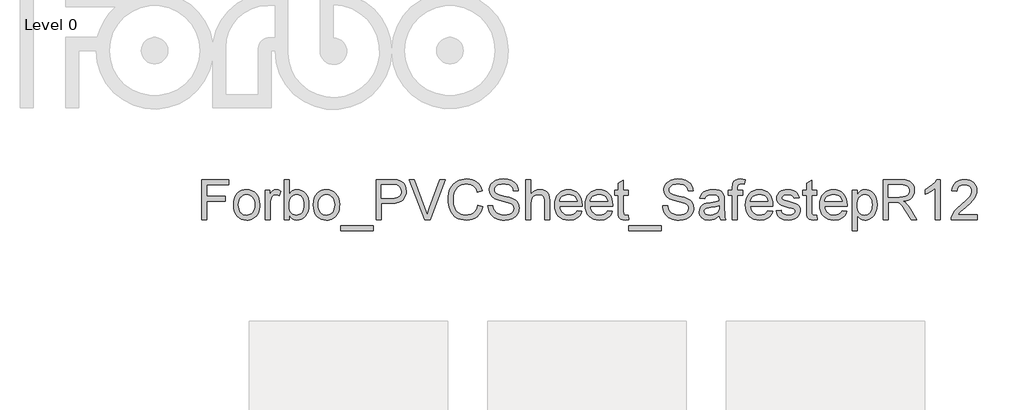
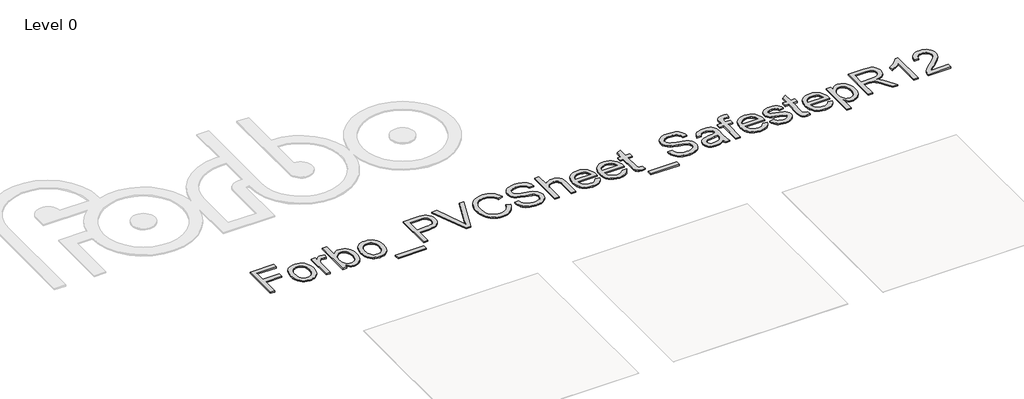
# One storey, part 5 of 5: 1 proxy.
"""IFC4 building model written with IfcOpenShell, lengths in millimetres."""

from ifc_helpers import new_model, si_unit, origin, origin_with_axes, place, context, project, spatial, polyline, outline, extrude, element, save

model = new_model("IFC4")

# Units and contexts
model_context = context("Model", 3, world=origin())
ifc_project = project(units=[si_unit("LENGTHUNIT", "METRE", prefix="MILLI")], contexts=[model_context])

# Site, building, storey
site = spatial("IfcSite", under=ifc_project)
building = spatial("IfcBuilding", under=site)
storey = spatial("IfcBuildingStorey", under=building, Name="Level 0", Elevation=0.0)

# Proxy
placement = place(None, origin())
element("IfcBuildingElementProxy", 1, Name="Title", ObjectType="Title", at=placement, inside=storey, context=model_context, shape_type="SweptSolid", body=[
    extrude(outline(polyline([(19003.7501989, 2450.4314066), (19003.7501989, 3053.1692675), (19408.7146992, 3053.1692675), (19408.7146992, 2977.8270349), (19079.0924315, 2977.8270349), (19079.0924315, 2798.8892325), (19361.6258038, 2798.8892325), (19361.6258038, 2723.5469998), (19079.0924315, 2723.5469998), (19079.0924315, 2450.4314066), (19003.7501989, 2450.4314066)])), origin_with_axes(), (0.0, 0.0, 1.0), 20.0),
    extrude(outline(polyline([(19484.0569318, 2671.7492149), (19488.1312249, 2729.0744268), (19500.3541042, 2778.4717817), (19520.7255697, 2819.9412796), (19549.2456213, 2853.4829205), (19577.9588111, 2874.9212438), (19609.6518449, 2890.2343319), (19644.324723, 2899.4221847), (19681.9774452, 2902.4848023), (19723.5435121, 2898.7553986), (19761.1272565, 2887.5671874), (19794.7286782, 2868.9201688), (19824.3477773, 2842.8143427), (19848.5222229, 2810.1326259), (19865.7896841, 2771.7579353), (19876.1501608, 2727.6902708), (19879.603653, 2677.9296324), (19878.0769427, 2637.6005687), (19873.4968119, 2601.8148476), (19865.8632605, 2570.5724692), (19855.1762885, 2543.8734334), (19841.5692532, 2520.8118308), (19825.1755118, 2500.4817521), (19805.9950643, 2482.8831971), (19784.0279107, 2468.016166), (19760.1293765, 2456.2025554), (19735.1547876, 2447.7642622), (19709.1041438, 2442.7012862), (19681.9774452, 2441.0136275), (19639.804373, 2444.7292357), (19601.8711407, 2455.8760601), (19568.1777485, 2474.4541009), (19538.7241963, 2500.463358), (19514.8072681, 2533.4623729), (19497.7237479, 2573.0096874), (19487.4736358, 2619.1053014), (19484.0569318, 2671.7492149)]), holes=[polyline([(19559.3991644, 2671.8963677), (19561.5788652, 2635.35189), (19568.1179677, 2603.7094399), (19579.0164718, 2576.9690174), (19594.2743775, 2555.1306224), (19612.8340242, 2538.1666639), (19633.637751, 2526.0495507), (19656.685558, 2518.7792828), (19681.9774452, 2516.3558602), (19707.1405737, 2518.7930784), (19730.0964102, 2526.104733), (19750.8449547, 2538.2908241), (19769.3862072, 2555.3513516), (19784.644113, 2577.4058773), (19795.5426171, 2604.5739626), (19802.0817196, 2636.8556077), (19804.2614204, 2674.2508125), (19802.067924, 2709.6364619), (19795.4874348, 2740.4511775), (19784.5199528, 2766.6949593), (19769.165478, 2788.3678074), (19750.5552476, 2805.3317659), (19729.8204987, 2817.4488791), (19706.9612312, 2824.719147), (19681.9774452, 2827.1425697), (19656.685558, 2824.7283441), (19633.637751, 2817.4856673), (19612.8340242, 2805.4145393), (19594.2743775, 2788.5149602), (19579.0164718, 2766.7409446), (19568.1179677, 2740.0465073), (19561.5788652, 2708.4316484), (19559.3991644, 2671.8963677)])]), origin_with_axes(), (0.0, 0.0, 1.0), 20.0),
    extrude(outline(polyline([(19964.3636647, 2450.4314066), (19964.3636647, 2893.0670232), (20030.2881182, 2893.0670232), (20030.2881182, 2827.5840281), (20054.6419063, 2865.54945), (20077.082708, 2887.9166753), (20099.5970861, 2898.8427705), (20124.1716034, 2902.4848023), (20161.6955669, 2896.6722668), (20199.8081416, 2879.2346602), (20174.6450131, 2811.6915259), (20148.1575095, 2823.2798087), (20121.6700058, 2827.1425697), (20099.1740218, 2823.4269615), (20079.0692708, 2812.2801371), (20062.8272807, 2794.5482249), (20051.9195795, 2771.0773536), (20042.7593179, 2728.9916534), (20039.7058973, 2683.0799804), (20039.7058973, 2450.4314066), (19964.3636647, 2450.4314066)])), origin_with_axes(), (0.0, 0.0, 1.0), 20.0),
    extrude(outline(polyline([(20322.2392696, 2450.4314066), (20246.897037, 2450.4314066), (20246.897037, 3053.1692675), (20322.2392696, 3053.1692675), (20322.2392696, 2829.6441672), (20347.016122, 2861.5119451), (20374.9935477, 2884.2746435), (20406.1715468, 2897.9322626), (20440.5501192, 2902.4848023), (20479.3616697, 2898.382918), (20516.0395047, 2886.0772653), (20548.4866966, 2866.3403963), (20574.6063183, 2839.9448631), (20595.0789513, 2807.1481832), (20610.5851774, 2768.2078741), (20620.3524444, 2724.7426163), (20623.6082, 2678.3710908), (20620.2374813, 2624.8626546), (20610.1253249, 2577.7921533), (20593.271731, 2537.159587), (20569.6766996, 2502.9649555), (20541.3543845, 2475.8612495), (20510.3189396, 2456.5014595), (20476.5703651, 2444.8855855), (20440.1086609, 2441.0136275), (20404.5988513, 2446.0076256), (20373.1173495, 2460.9896199), (20345.6641556, 2485.9596103), (20322.2392696, 2520.9175969), (20322.2392696, 2450.4314066)]), holes=[polyline([(20322.2392696, 2674.8394237), (20327.3896175, 2612.0051789), (20333.8275524, 2588.2032138), (20342.8406613, 2569.4780203), (20361.0968053, 2546.2370752), (20382.3143994, 2529.6364002), (20406.4934435, 2519.6759952), (20433.6339377, 2516.3558602), (20456.1667099, 2518.8022754), (20477.1175896, 2526.1415212), (20496.4865766, 2538.3735976), (20514.2736711, 2555.4985044), (20529.1453007, 2577.4702566), (20539.7678933, 2604.2428688), (20546.1414489, 2635.816341), (20548.2659674, 2672.1906733), (20546.2288209, 2709.2547843), (20540.1173812, 2741.1317592), (20529.9316485, 2767.821598), (20515.6716227, 2789.3243006), (20498.5237232, 2805.8697933), (20479.6743694, 2817.6880024), (20459.1235615, 2824.7789279), (20436.8712993, 2827.1425697), (20414.3385271, 2824.6961544), (20393.3876475, 2817.3569086), (20374.0186604, 2805.1248323), (20356.231566, 2787.9999254), (20341.3599363, 2766.2489024), (20330.7373437, 2740.1384778), (20324.3637881, 2709.6686516), (20322.2392696, 2674.8394237)])]), origin_with_axes(), (0.0, 0.0, 1.0), 20.0),
    extrude(outline(polyline([(20689.5326536, 2671.7492149), (20693.6069467, 2729.0744268), (20705.829826, 2778.4717817), (20726.2012915, 2819.9412796), (20754.7213431, 2853.4829205), (20783.4345329, 2874.9212438), (20815.1275667, 2890.2343319), (20849.8004448, 2899.4221847), (20887.453167, 2902.4848023), (20929.0192339, 2898.7553986), (20966.6029783, 2887.5671874), (21000.2044, 2868.9201688), (21029.8234991, 2842.8143427), (21053.9979447, 2810.1326259), (21071.2654059, 2771.7579353), (21081.6258826, 2727.6902708), (21085.0793748, 2677.9296324), (21083.5526645, 2637.6005687), (21078.9725337, 2601.8148476), (21071.3389823, 2570.5724692), (21060.6520103, 2543.8734334), (21047.044975, 2520.8118308), (21030.6512336, 2500.4817521), (21011.4707861, 2482.8831971), (20989.5036325, 2468.016166), (20965.6050983, 2456.2025554), (20940.6305094, 2447.7642622), (20914.5798656, 2442.7012862), (20887.453167, 2441.0136275), (20845.2800948, 2444.7292357), (20807.3468625, 2455.8760601), (20773.6534703, 2474.4541009), (20744.1999181, 2500.463358), (20720.2829899, 2533.4623729), (20703.1994697, 2573.0096874), (20692.9493576, 2619.1053014), (20689.5326536, 2671.7492149)]), holes=[polyline([(20764.8748862, 2671.8963677), (20767.054587, 2635.35189), (20773.5936895, 2603.7094399), (20784.4921936, 2576.9690174), (20799.7500993, 2555.1306224), (20818.309746, 2538.1666639), (20839.1134728, 2526.0495507), (20862.1612798, 2518.7792828), (20887.453167, 2516.3558602), (20912.6162955, 2518.7930784), (20935.572132, 2526.104733), (20956.3206765, 2538.2908241), (20974.861929, 2555.3513516), (20990.1198348, 2577.4058773), (21001.0183389, 2604.5739626), (21007.5574414, 2636.8556077), (21009.7371422, 2674.2508125), (21007.5436458, 2709.6364619), (21000.9631566, 2740.4511775), (20989.9956746, 2766.6949593), (20974.6411998, 2788.3678074), (20956.0309694, 2805.3317659), (20935.2962205, 2817.4488791), (20912.436953, 2824.719147), (20887.453167, 2827.1425697), (20862.1612798, 2824.7283441), (20839.1134728, 2817.4856673), (20818.309746, 2805.4145393), (20799.7500993, 2788.5149602), (20784.4921936, 2766.7409446), (20773.5936895, 2740.0465073), (20767.054587, 2708.4316484), (20764.8748862, 2671.8963677)])]), origin_with_axes(), (0.0, 0.0, 1.0), 20.0),
    extrude(outline(polyline([(21103.9149329, 2280.9113832), (21103.9149329, 2356.2536159), (21593.6394449, 2356.2536159), (21593.6394449, 2280.9113832), (21103.9149329, 2280.9113832)])), origin_with_axes(), (0.0, 0.0, 1.0), 20.0),
    extrude(outline(polyline([(21640.7283403, 2450.4314066), (21640.7283403, 3053.1692675), (21864.1062878, 3053.1692675), (21916.1248019, 3051.7345277), (21954.1638002, 3047.4303084), (21994.31812, 3036.7065482), (22027.3723172, 3019.2505476), (22053.9885796, 2994.2713601), (22074.8290946, 2960.9780395), (22088.2935756, 2921.7066365), (22092.781736, 2878.7932018), (22089.751308, 2841.7934701), (22080.6600242, 2807.7551885), (22065.5078846, 2776.678357), (22044.294889, 2748.5629755), (22015.1724306, 2725.2576511), (21976.2919022, 2708.6109908), (21927.6533039, 2698.6229947), (21869.2566357, 2695.2936626), (21716.0705729, 2695.2936626), (21716.0705729, 2450.4314066), (21640.7283403, 2450.4314066)]), holes=[polyline([(21716.0705729, 2770.6358952), (21873.6712197, 2770.6358952), (21909.9075962, 2772.3649406), (21940.47859, 2777.5520767), (21965.3842011, 2786.1973036), (21984.6244294, 2798.3006213), (21998.9810243, 2813.5401329), (22009.2357349, 2831.5939418), (22015.3885612, 2852.462048), (22017.4395034, 2876.1444514), (22012.6018551, 2909.989595), (21998.0889104, 2938.5372378), (21975.703291, 2960.0215463), (21947.2476187, 2972.676687), (21918.1849411, 2976.5394479), (21871.9053861, 2977.8270349), (21716.0705729, 2977.8270349), (21716.0705729, 2770.6358952)])]), origin_with_axes(), (0.0, 0.0, 1.0), 20.0),
    extrude(outline(polyline([(22374.4321915, 2450.4314066), (22134.5731306, 3053.1692675), (22215.212864, 3053.1692675), (22375.7565667, 2618.9213604), (22408.277335, 2521.0647497), (22440.356645, 2618.9213604), (22601.3418061, 3053.1692675), (22681.9815395, 3053.1692675), (22452.2760217, 2450.4314066), (22374.4321915, 2450.4314066)])), origin_with_axes(), (0.0, 0.0, 1.0), 20.0),
    extrude(outline(polyline([(23175.8263298, 2664.6858806), (23251.1685624, 2645.2617113), (23236.2601445, 2598.4073407), (23216.4037139, 2557.4666731), (23191.5992703, 2522.4397087), (23161.846814, 2493.3264473), (23127.8177294, 2470.4395886), (23090.1834013, 2454.0918325), (23048.9438296, 2444.2831788), (23004.0990144, 2441.0136275), (22958.1551518, 2443.487634), (22916.7086465, 2450.9096532), (22879.7594986, 2463.2796853), (22847.3077081, 2480.5977302), (22818.9072181, 2502.6062706), (22794.1119716, 2529.047789), (22772.9219687, 2559.9222854), (22755.3372093, 2595.2297599), (22741.5278389, 2633.4435022), (22731.6640029, 2673.0368019), (22725.7457013, 2714.0096591), (22723.7729341, 2756.3620738), (22726.0032187, 2801.8046973), (22732.6940725, 2844.2490825), (22743.8454955, 2883.6952294), (22759.4574876, 2920.1431381), (22779.1805611, 2952.9904017), (22802.665228, 2981.6346136), (22829.9114882, 3006.0757736), (22860.9193419, 3026.3138819), (22894.6357268, 3042.1833914), (22930.0075806, 3053.5187554), (22967.0349034, 3060.3199738), (23005.7176952, 3062.5870466), (23048.8104724, 3059.6531877), (23088.3255972, 3050.8516109), (23124.2630696, 3036.1823164), (23156.6228896, 3015.645304), (23184.8716283, 2989.7831997), (23208.4758569, 2959.1386295), (23227.4355752, 2923.7115934), (23241.7507833, 2883.5020913), (23166.4085507, 2865.54945), (23154.5443564, 2895.1777462), (23140.2889291, 2920.492626), (23123.6422688, 2941.4940894), (23104.6043755, 2958.1821364), (23083.0648847, 2970.8970578), (23058.9134317, 2979.9791446), (23032.1500166, 2985.4283966), (23002.7746393, 2987.244814), (22968.9754809, 2985.2306601), (22938.0641963, 2979.1881983), (22910.0407853, 2969.1174287), (22884.905248, 2955.0183512), (22862.9748826, 2937.5255623), (22844.5669872, 2917.2736585), (22829.681562, 2894.2626397), (22818.3186069, 2868.4925059), (22803.9160268, 2813.3469949), (22799.1151667, 2756.5092266), (22804.7989436, 2686.9059531), (22811.9036646, 2655.6359835), (22821.850274, 2626.7204587), (22834.7997203, 2600.7341943), (22850.9129516, 2578.2520058), (22870.1899682, 2559.2738934), (22892.6307699, 2543.799857), (22917.1455064, 2531.7931084), (22942.6443271, 2523.2168594), (22969.1272323, 2518.07111), (22996.5942217, 2516.3558602), (23029.3495149, 2518.6919108), (23059.4836488, 2525.7000628), (23086.9966235, 2537.3803162), (23111.888439, 2553.7326709), (23133.5704841, 2574.6835505), (23151.4541476, 2600.1593787), (23165.5394295, 2630.1601554), (23175.8263298, 2664.6858806)])), origin_with_axes(), (0.0, 0.0, 1.0), 20.0),
    extrude(outline(polyline([(23326.510795, 2657.6225463), (23401.8530276, 2657.6225463), (23410.4982545, 2615.8127576), (23426.1332393, 2582.2067373), (23450.5238156, 2555.5352926), (23485.4358169, 2534.5292307), (23528.1101284, 2520.8992028), (23575.7876349, 2516.3558602), (23617.7629706, 2519.7955568), (23654.5143819, 2530.1146468), (23684.2944294, 2546.4486074), (23705.3556736, 2567.9329159), (23717.8820556, 2592.5994037), (23722.0575162, 2618.479902), (23718.9305193, 2643.6982128), (23709.5495284, 2665.495221), (23690.493241, 2684.0916559), (23658.3403547, 2699.7082466), (23548.6379437, 2728.4766186), (23476.6250431, 2747.5145118), (23430.5478232, 2765.6327001), (23393.0422538, 2790.9797696), (23366.4627797, 2821.6979162), (23350.6254598, 2857.1249523), (23345.3463532, 2896.5986904), (23346.9788295, 2919.0348936), (23351.8762586, 2940.7261357), (23360.0386403, 2961.6724168), (23371.4659748, 2981.8737369), (23386.0295033, 3000.5069599), (23403.6004671, 3016.74895), (23424.1788662, 3030.5997071), (23447.7647006, 3042.0592313), (23500.7764961, 3057.4550928), (23559.4536744, 3062.5870466), (23623.0236831, 3057.2159695), (23678.6474408, 3041.1027381), (23702.9828348, 3029.100588), (23724.3383846, 3014.5784462), (23742.7140903, 2997.5363128), (23758.1099518, 2977.9741877), (23770.4064074, 2956.462288), (23779.4838957, 2933.5708309), (23785.3424164, 2909.2998163), (23787.9819698, 2883.6492441), (23712.6397371, 2883.6492441), (23707.5997538, 2907.6903325), (23698.8073741, 2928.604424), (23686.2625981, 2946.3915184), (23669.9654257, 2961.0516159), (23649.6123543, 2972.5111401), (23624.8998813, 2980.6965145), (23595.8280066, 2985.6077391), (23562.3967303, 2987.244814), (23527.8985962, 2985.6261332), (23498.4220514, 2980.7700909), (23473.9670957, 2972.676687), (23454.5337293, 2961.3459215), (23439.726479, 2947.7250906), (23429.1498717, 2932.7614905), (23422.8039072, 2916.4551211), (23420.6885858, 2898.8059823), (23422.1877049, 2883.621653), (23426.6850623, 2869.8536693), (23434.1806579, 2857.5020313), (23444.6744919, 2846.566739), (23461.1923934, 2836.2108609), (23487.2016505, 2825.7446181), (23567.694231, 2804.4810388), (23650.7619856, 2784.2843172), (23701.0146661, 2766.6627697), (23743.964889, 2739.3291374), (23760.5701626, 2723.2618913), (23773.9288775, 2705.5943585), (23784.1973837, 2686.4185095), (23791.532031, 2665.8263148), (23797.3997488, 2620.3928884), (23795.7120902, 2596.8254481), (23790.6491142, 2573.9477865), (23782.210821, 2551.7599037), (23770.3972104, 2530.2617996), (23755.4152161, 2510.2858072), (23737.4717718, 2492.6642597), (23716.5668774, 2477.3971569), (23692.700533, 2464.4844988), (23666.5671158, 2454.2159926), (23638.861003, 2446.8813454), (23578.7306909, 2441.0136275), (23540.1904534, 2442.5955201), (23504.9151686, 2447.3411979), (23472.9048365, 2455.2506608), (23444.1594571, 2466.3239088), (23418.5042864, 2480.5793361), (23395.7645806, 2498.0353368), (23375.9403396, 2518.6919108), (23359.0315634, 2542.5490582), (23345.4107325, 2568.8342268), (23335.4503275, 2596.7748643), (23329.1503483, 2626.3709708), (23326.510795, 2657.6225463)])), origin_with_axes(), (0.0, 0.0, 1.0), 20.0),
    extrude(outline(polyline([(23900.9953187, 2450.4314066), (23900.9953187, 3053.1692675), (23976.3375513, 3053.1692675), (23976.3375513, 2831.5571536), (24004.0114744, 2862.5879999), (24035.0883059, 2884.7528901), (24069.5680459, 2898.0518243), (24107.4506944, 2902.4848023), (24152.9576972, 2897.6471541), (24192.0635533, 2883.1342093), (24222.8552763, 2860.0864023), (24243.4198798, 2829.6441672), (24255.0081626, 2787.8159844), (24258.8709236, 2730.6103341), (24258.8709236, 2450.4314066), (24183.528691, 2450.4314066), (24183.528691, 2722.8112358), (24182.0295718, 2748.2502758), (24177.5322145, 2769.9737076), (24170.0366188, 2787.9815313), (24159.5427849, 2802.2737468), (24146.2990331, 2813.1538568), (24130.5536837, 2820.925364), (24112.3067367, 2825.5882683), (24091.5581922, 2827.1425697), (24059.7180055, 2822.9487149), (24029.8275934, 2810.3671507), (24005.0691351, 2790.6118876), (23988.6248099, 2764.8969361), (23979.409366, 2730.7206987), (23976.3375513, 2685.5815779), (23976.3375513, 2450.4314066), (23900.9953187, 2450.4314066)])), origin_with_axes(), (0.0, 0.0, 1.0), 20.0),
    extrude(outline(polyline([(24672.3702862, 2582.2803137), (24746.2409908, 2572.8625346), (24734.9148239, 2543.2756252), (24719.6247284, 2517.2019887), (24700.3707045, 2494.6416254), (24677.1527521, 2475.5945351), (24650.2099945, 2460.465388), (24619.781555, 2449.6588544), (24585.8674335, 2443.1749343), (24548.4676302, 2441.0136275), (24501.7190257, 2444.7430313), (24460.0655867, 2455.9312424), (24423.5073135, 2474.5782611), (24392.0442058, 2500.6840872), (24366.7431216, 2533.5221538), (24348.6709186, 2572.3658939), (24337.8275968, 2617.2153077), (24334.2131562, 2668.070395), (24337.864385, 2720.6499291), (24348.8180714, 2766.9938635), (24367.0742154, 2807.102198), (24392.632817, 2840.9749327), (24424.0131512, 2867.8855006), (24459.734493, 2887.1073349), (24499.7968422, 2898.6404354), (24544.200199, 2902.4848023), (24587.1734146, 2898.6496325), (24626.0355489, 2887.1441231), (24660.7866018, 2867.9682741), (24691.4265735, 2841.1220855), (24716.4379507, 2807.3229272), (24734.3032201, 2767.2881691), (24745.0223817, 2721.0178111), (24748.5954356, 2668.5118534), (24748.1539772, 2648.2047672), (24409.5553888, 2648.2047672), (24413.919389, 2618.1396112), (24422.5968055, 2591.8084574), (24435.5876385, 2569.2113058), (24452.8918878, 2550.3481565), (24473.5530604, 2535.4765269), (24496.614663, 2524.8539342), (24522.0766956, 2518.4803787), (24549.9391582, 2516.3558602), (24590.0382956, 2520.2921975), (24623.8098628, 2532.1012095), (24651.2538596, 2552.5186603), (24672.3702862, 2582.2803137)]), holes=[polyline([(24409.5553888, 2723.5469998), (24673.253203, 2723.5469998), (24663.0628717, 2763.3518317), (24654.2980832, 2779.0052106), (24643.0868793, 2791.8258981), (24622.5406699, 2807.2769419), (24599.1617691, 2818.3134018), (24572.950177, 2824.9352777), (24543.9058934, 2827.1425697), (24517.4137913, 2825.3813346), (24493.119784, 2820.0976295), (24471.0238717, 2811.2914542), (24451.1260543, 2798.9628088), (24434.4288102, 2783.6819105), (24421.9346179, 2766.0189762), (24413.6434775, 2745.974006), (24409.5553888, 2723.5469998)])]), origin_with_axes(), (0.0, 0.0, 1.0), 20.0),
    extrude(outline(polyline([(25133.8414609, 2582.2803137), (25207.7121655, 2572.8625346), (25196.3859986, 2543.2756252), (25181.0959032, 2517.2019887), (25161.8418793, 2494.6416254), (25138.6239269, 2475.5945351), (25111.6811692, 2460.465388), (25081.2527297, 2449.6588544), (25047.3386083, 2443.1749343), (25009.9388049, 2441.0136275), (24963.1902004, 2444.7430313), (24921.5367615, 2455.9312424), (24884.9784882, 2474.5782611), (24853.5153806, 2500.6840872), (24828.2142964, 2533.5221538), (24810.1420934, 2572.3658939), (24799.2987716, 2617.2153077), (24795.6843309, 2668.070395), (24799.3355598, 2720.6499291), (24810.2892462, 2766.9938635), (24828.5453902, 2807.102198), (24854.1039918, 2840.9749327), (24885.484326, 2867.8855006), (24921.2056677, 2887.1073349), (24961.268017, 2898.6404354), (25005.6713738, 2902.4848023), (25048.6445894, 2898.6496325), (25087.5067236, 2887.1441231), (25122.2577766, 2867.9682741), (25152.8977483, 2841.1220855), (25177.9091254, 2807.3229272), (25195.7743948, 2767.2881691), (25206.4935564, 2721.0178111), (25210.0666103, 2668.5118534), (25209.6251519, 2648.2047672), (24871.0265636, 2648.2047672), (24875.3905637, 2618.1396112), (24884.0679803, 2591.8084574), (24897.0588132, 2569.2113058), (24914.3630626, 2550.3481565), (24935.0242351, 2535.4765269), (24958.0858377, 2524.8539342), (24983.5478703, 2518.4803787), (25011.4103329, 2516.3558602), (25051.5094704, 2520.2921975), (25085.2810376, 2532.1012095), (25112.7250344, 2552.5186603), (25133.8414609, 2582.2803137)]), holes=[polyline([(24871.0265636, 2723.5469998), (25134.7243777, 2723.5469998), (25124.5340464, 2763.3518317), (25115.7692579, 2779.0052106), (25104.5580541, 2791.8258981), (25084.0118447, 2807.2769419), (25060.6329439, 2818.3134018), (25034.4213517, 2824.9352777), (25005.3770682, 2827.1425697), (24978.884966, 2825.3813346), (24954.5909588, 2820.0976295), (24932.4950464, 2811.2914542), (24912.597229, 2798.9628088), (24895.899985, 2783.6819105), (24883.4057927, 2766.0189762), (24875.1146522, 2745.974006), (24871.0265636, 2723.5469998)])]), origin_with_axes(), (0.0, 0.0, 1.0), 20.0),
    extrude(outline(polyline([(25445.5110872, 2513.2656514), (25454.9288663, 2448.2241146), (25398.5693446, 2441.0136275), (25362.4065445, 2444.1406245), (25335.4407943, 2453.5216154), (25316.3845069, 2467.9793778), (25303.9500955, 2486.3366893), (25297.1074904, 2517.8641763), (25294.826622, 2571.832465), (25294.826622, 2817.7247906), (25238.3199475, 2817.7247906), (25238.3199475, 2893.0670232), (25294.826622, 2893.0670232), (25294.826622, 3000.6357186), (25370.1688546, 3044.9287108), (25370.1688546, 2893.0670232), (25445.5110872, 2893.0670232), (25445.5110872, 2817.7247906), (25370.1688546, 2817.7247906), (25370.1688546, 2574.039757), (25374.1419802, 2535.1914183), (25387.01785, 2521.4326317), (25397.888763, 2517.625053), (25412.6960133, 2516.3558602), (25445.5110872, 2513.2656514)])), origin_with_axes(), (0.0, 0.0, 1.0), 20.0),
    extrude(outline(polyline([(25454.9288663, 2280.9113832), (25454.9288663, 2356.2536159), (25944.6533783, 2356.2536159), (25944.6533783, 2280.9113832), (25454.9288663, 2280.9113832)])), origin_with_axes(), (0.0, 0.0, 1.0), 20.0),
    extrude(outline(polyline([(25963.4889364, 2657.6225463), (26038.831169, 2657.6225463), (26047.4763959, 2615.8127576), (26063.1113807, 2582.2067373), (26087.501957, 2555.5352926), (26122.4139584, 2534.5292307), (26165.0882698, 2520.8992028), (26212.7657764, 2516.3558602), (26254.741112, 2519.7955568), (26291.4925233, 2530.1146468), (26321.2725708, 2546.4486074), (26342.3338151, 2567.9329159), (26354.860197, 2592.5994037), (26359.0356577, 2618.479902), (26355.9086607, 2643.6982128), (26346.5276698, 2665.495221), (26327.4713825, 2684.0916559), (26295.3184961, 2699.7082466), (26185.6160851, 2728.4766186), (26113.6031846, 2747.5145118), (26067.5259647, 2765.6327001), (26030.0203953, 2790.9797696), (26003.4409211, 2821.6979162), (25987.6036012, 2857.1249523), (25982.3244946, 2896.5986904), (25983.9569709, 2919.0348936), (25988.8544, 2940.7261357), (25997.0167818, 2961.6724168), (26008.4441162, 2981.8737369), (26023.0076447, 3000.5069599), (26040.5786085, 3016.74895), (26061.1570076, 3030.5997071), (26084.742842, 3042.0592313), (26137.7546376, 3057.4550928), (26196.4318158, 3062.5870466), (26260.0018245, 3057.2159695), (26315.6255822, 3041.1027381), (26339.9609762, 3029.100588), (26361.316526, 3014.5784462), (26379.6922317, 2997.5363128), (26395.0880932, 2977.9741877), (26407.3845489, 2956.462288), (26416.4620371, 2933.5708309), (26422.3205579, 2909.2998163), (26424.9601112, 2883.6492441), (26349.6178786, 2883.6492441), (26344.5778952, 2907.6903325), (26335.7855156, 2928.604424), (26323.2407395, 2946.3915184), (26306.9435671, 2961.0516159), (26286.5904958, 2972.5111401), (26261.8780227, 2980.6965145), (26232.8061481, 2985.6077391), (26199.3748717, 2987.244814), (26164.8767376, 2985.6261332), (26135.4001928, 2980.7700909), (26110.9452372, 2972.676687), (26091.5118708, 2961.3459215), (26076.7046205, 2947.7250906), (26066.1280131, 2932.7614905), (26059.7820487, 2916.4551211), (26057.6667272, 2898.8059823), (26059.1658463, 2883.621653), (26063.6632037, 2869.8536693), (26071.1587994, 2857.5020313), (26081.6526333, 2846.566739), (26098.1705349, 2836.2108609), (26124.1797919, 2825.7446181), (26204.6723725, 2804.4810388), (26287.740127, 2784.2843172), (26337.9928075, 2766.6627697), (26380.9430305, 2739.3291374), (26397.548304, 2723.2618913), (26410.907019, 2705.5943585), (26421.1755252, 2686.4185095), (26428.5101724, 2665.8263148), (26434.3778903, 2620.3928884), (26432.6902316, 2596.8254481), (26427.6272557, 2573.9477865), (26419.1889624, 2551.7599037), (26407.3753518, 2530.2617996), (26392.3933576, 2510.2858072), (26374.4499132, 2492.6642597), (26353.5450189, 2477.3971569), (26329.6786744, 2464.4844988), (26303.5452572, 2454.2159926), (26275.8391444, 2446.8813454), (26215.7088323, 2441.0136275), (26177.1685948, 2442.5955201), (26141.89331, 2447.3411979), (26109.8829779, 2455.2506608), (26081.1375985, 2466.3239088), (26055.4824279, 2480.5793361), (26032.742722, 2498.0353368), (26012.918481, 2518.6919108), (25996.0097048, 2542.5490582), (25982.3888739, 2568.8342268), (25972.4284689, 2596.7748643), (25966.1284898, 2626.3709708), (25963.4889364, 2657.6225463)])), origin_with_axes(), (0.0, 0.0, 1.0), 20.0),
    extrude(outline(polyline([(26820.5068324, 2506.9380811), (26784.5095792, 2476.0727817), (26747.4454682, 2455.8760601), (26708.4683708, 2444.7292357), (26666.7321584, 2441.0136275), (26633.185919, 2443.2485107), (26603.7691549, 2449.95316), (26578.4818663, 2461.1275756), (26557.3240531, 2476.7717575), (26540.6176119, 2495.8924242), (26528.6844397, 2517.4962943), (26521.5245364, 2541.583368), (26519.137902, 2568.1536451), (26522.7431455, 2599.3868265), (26533.5588762, 2627.7505283), (26550.2423246, 2652.03074), (26571.4507217, 2671.0134509), (26596.3747268, 2685.3608487), (26624.2049998, 2695.735121), (26689.3936893, 2707.0658865), (26766.4281791, 2718.9852631), (26820.065374, 2732.9647789), (26820.5068324, 2749.7401979), (26815.3196963, 2783.3646123), (26808.8357761, 2795.8174178), (26799.7582879, 2805.3639556), (26784.0681208, 2814.8920992), (26764.9566511, 2821.6979162), (26716.4698042, 2827.1425697), (26671.5882008, 2823.518932), (26640.2446548, 2812.6480191), (26618.8707108, 2792.543268), (26603.8979136, 2761.2181161), (26528.555681, 2770.6358952), (26541.633886, 2811.8386787), (26561.1500258, 2844.2122943), (26588.9251164, 2868.9707525), (26626.7801737, 2887.3280641), (26673.0781228, 2898.6956177), (26726.1818888, 2902.4848023), (26777.1151511, 2899.1370761), (26817.4902, 2889.0938977), (26847.9324351, 2873.9923418), (26869.0672558, 2855.4694833), (26883.0835598, 2832.5688291), (26892.1702451, 2804.333886), (26895.849065, 2738.4094324), (26895.849065, 2644.6731001), (26899.6750378, 2513.7806862), (26905.3404205, 2481.4254647), (26914.6846232, 2450.4314066), (26839.3423906, 2450.4314066), (26827.2758611, 2476.6246047), (26820.5068324, 2506.9380811)]), holes=[polyline([(26820.5068324, 2657.6225463), (26769.8862699, 2645.0777703), (26698.9586212, 2634.519557), (26634.1378136, 2622.3058748), (26617.2704242, 2613.9549535), (26604.7808304, 2602.440247), (26597.0553085, 2588.6446722), (26594.4801346, 2573.4511458), (26600.090335, 2551.0471323), (26616.9209363, 2532.6898207), (26644.6040564, 2520.4393503), (26682.7718134, 2516.3558602), (26723.2388329, 2520.8624146), (26758.9969628, 2534.3820779), (26787.986064, 2554.302888), (26808.1459974, 2578.0128825), (26817.0855298, 2602.440247), (26820.065374, 2636.2853906), (26820.5068324, 2657.6225463)])]), origin_with_axes(), (0.0, 0.0, 1.0), 20.0),
    extrude(outline(polyline([(27018.280193, 2450.4314066), (27018.280193, 2817.7247906), (26952.3557395, 2817.7247906), (26952.3557395, 2893.0670232), (27018.280193, 2893.0670232), (27018.280193, 2937.654321), (27020.2667558, 2974.5528851), (27026.2264441, 3000.4885658), (27041.3831823, 3025.5413297), (27064.7804772, 3045.3701692), (27097.5219748, 3058.2828272), (27140.711321, 3062.5870466), (27173.4160304, 3060.5269074), (27209.4316777, 3054.3464899), (27198.3952178, 2983.7131468), (27154.9851424, 2987.244814), (27126.3455291, 2984.117817), (27107.528365, 2974.7368261), (27097.0989105, 2956.820973), (27093.6224256, 2928.0893892), (27093.6224256, 2893.0670232), (27178.3824373, 2893.0670232), (27178.3824373, 2817.7247906), (27093.6224256, 2817.7247906), (27093.6224256, 2450.4314066), (27018.280193, 2450.4314066)])), origin_with_axes(), (0.0, 0.0, 1.0), 20.0),
    extrude(outline(polyline([(27554.2106836, 2582.2803137), (27628.0813882, 2572.8625346), (27616.7552213, 2543.2756252), (27601.4651259, 2517.2019887), (27582.2111019, 2494.6416254), (27558.9931495, 2475.5945351), (27532.0503919, 2460.465388), (27501.6219524, 2449.6588544), (27467.7078309, 2443.1749343), (27430.3080276, 2441.0136275), (27383.5594231, 2444.7430313), (27341.9059842, 2455.9312424), (27305.3477109, 2474.5782611), (27273.8846033, 2500.6840872), (27248.583519, 2533.5221538), (27230.511316, 2572.3658939), (27219.6679942, 2617.2153077), (27216.0535536, 2668.070395), (27219.7047824, 2720.6499291), (27230.6584688, 2766.9938635), (27248.9146128, 2807.102198), (27274.4732144, 2840.9749327), (27305.8535486, 2867.8855006), (27341.5748904, 2887.1073349), (27381.6372396, 2898.6404354), (27426.0405965, 2902.4848023), (27469.013812, 2898.6496325), (27507.8759463, 2887.1441231), (27542.6269993, 2867.9682741), (27573.2669709, 2841.1220855), (27598.2783481, 2807.3229272), (27616.1436175, 2767.2881691), (27626.8627791, 2721.0178111), (27630.435833, 2668.5118534), (27629.9943746, 2648.2047672), (27291.3957862, 2648.2047672), (27295.7597864, 2618.1396112), (27304.437203, 2591.8084574), (27317.4280359, 2569.2113058), (27334.7322853, 2550.3481565), (27355.3934578, 2535.4765269), (27378.4550604, 2524.8539342), (27403.917093, 2518.4803787), (27431.7795556, 2516.3558602), (27471.8786931, 2520.2921975), (27505.6502602, 2532.1012095), (27533.0942571, 2552.5186603), (27554.2106836, 2582.2803137)]), holes=[polyline([(27291.3957862, 2723.5469998), (27555.0936004, 2723.5469998), (27544.9032691, 2763.3518317), (27536.1384806, 2779.0052106), (27524.9272768, 2791.8258981), (27504.3810673, 2807.2769419), (27481.0021665, 2818.3134018), (27454.7905744, 2824.9352777), (27425.7462909, 2827.1425697), (27399.2541887, 2825.3813346), (27374.9601814, 2820.0976295), (27352.8642691, 2811.2914542), (27332.9664517, 2798.9628088), (27316.2692076, 2783.6819105), (27303.7750154, 2766.0189762), (27295.4838749, 2745.974006), (27291.3957862, 2723.5469998)])]), origin_with_axes(), (0.0, 0.0, 1.0), 20.0),
    extrude(outline(polyline([(27677.5247284, 2582.2803137), (27752.866961, 2591.6980928), (27757.4195007, 2574.5180036), (27764.7495494, 2559.47163), (27774.8571072, 2546.558972), (27787.7421741, 2535.7800295), (27803.4415383, 2527.2819554), (27821.9919879, 2521.2119025), (27867.6461435, 2516.3558602), (27912.7484761, 2520.8072323), (27930.2780532, 2526.3714475), (27944.4599041, 2534.1613487), (27963.2218858, 2553.5119417), (27967.9123813, 2564.3460664), (27969.4758797, 2575.9527434), (27967.9031842, 2586.1246805), (27963.1850976, 2595.1561835), (27944.3127513, 2609.7978869), (27916.0962022, 2619.3628188), (27866.7632267, 2631.2821954), (27798.0060818, 2651.1662173), (27753.3084194, 2668.1439714), (27724.5952296, 2686.6668298), (27703.7915028, 2711.1861648), (27691.1547563, 2740.1384778), (27686.9425074, 2771.9602704), (27690.3270218, 2801.1517067), (27700.4805649, 2828.0990629), (27716.4834317, 2851.7354811), (27737.4159172, 2870.9941035), (27758.219644, 2883.1158152), (27785.314153, 2893.2877524), (27816.6393048, 2900.1855398), (27850.1349605, 2902.4848023), (27899.1736305, 2898.7875882), (27941.8111537, 2887.6959461), (27976.0977557, 2870.2951277), (28000.0836617, 2847.670385), (28015.9761639, 2818.1478549), (28025.9825542, 2780.0536743), (27950.6403216, 2770.6358952), (27941.130572, 2794.3458898), (27922.313408, 2812.2065607), (27894.0048884, 2823.4085674), (27856.0210724, 2827.1425697), (27812.7581498, 2823.5741143), (27783.9162014, 2812.8687483), (27767.6926054, 2797.4177045), (27762.2847401, 2779.6122159), (27764.5288202, 2768.0239331), (27771.2610607, 2757.686449), (27782.7757672, 2748.4526109), (27799.3672452, 2741.0581828), (27864.2616291, 2725.0185278), (27974.8469569, 2689.5547035), (28004.0567873, 2672.5953435), (28026.2032834, 2649.3819896), (28040.1644051, 2619.8410654), (28044.8181123, 2583.8989945), (28039.3550647, 2546.742913), (28022.9659218, 2511.7941234), (27996.2760831, 2481.7933467), (27959.9109479, 2459.4813037), (27915.9858376, 2445.6305466), (27866.6160739, 2441.0136275), (27826.066281, 2443.2393136), (27790.6484419, 2449.9163718), (27760.3625566, 2461.0448022), (27735.2086252, 2476.6246047), (27714.6624158, 2496.5822029), (27698.1996965, 2520.8440205), (27685.8204674, 2549.4100574), (27677.5247284, 2582.2803137)])), origin_with_axes(), (0.0, 0.0, 1.0), 20.0),
    extrude(outline(polyline([(28289.6803683, 2513.2656514), (28299.0981474, 2448.2241146), (28242.7386258, 2441.0136275), (28206.5758256, 2444.1406245), (28179.6100754, 2453.5216154), (28160.553788, 2467.9793778), (28148.1193766, 2486.3366893), (28141.2767715, 2517.8641763), (28138.9959031, 2571.832465), (28138.9959031, 2817.7247906), (28082.4892287, 2817.7247906), (28082.4892287, 2893.0670232), (28138.9959031, 2893.0670232), (28138.9959031, 3000.6357186), (28214.3381357, 3044.9287108), (28214.3381357, 2893.0670232), (28289.6803683, 2893.0670232), (28289.6803683, 2817.7247906), (28214.3381357, 2817.7247906), (28214.3381357, 2574.039757), (28218.3112613, 2535.1914183), (28231.1871311, 2521.4326317), (28242.0580441, 2517.625053), (28256.8652944, 2516.3558602), (28289.6803683, 2513.2656514)])), origin_with_axes(), (0.0, 0.0, 1.0), 20.0),
    extrude(outline(polyline([(28674.9263937, 2582.2803137), (28748.7970983, 2572.8625346), (28737.4709314, 2543.2756252), (28722.180836, 2517.2019887), (28702.926812, 2494.6416254), (28679.7088596, 2475.5945351), (28652.766102, 2460.465388), (28622.3376625, 2449.6588544), (28588.423541, 2443.1749343), (28551.0237377, 2441.0136275), (28504.2751332, 2444.7430313), (28462.6216943, 2455.9312424), (28426.063421, 2474.5782611), (28394.6003134, 2500.6840872), (28369.2992291, 2533.5221538), (28351.2270261, 2572.3658939), (28340.3837043, 2617.2153077), (28336.7692637, 2668.070395), (28340.4204925, 2720.6499291), (28351.3741789, 2766.9938635), (28369.6303229, 2807.102198), (28395.1889246, 2840.9749327), (28426.5692587, 2867.8855006), (28462.2906005, 2887.1073349), (28502.3529498, 2898.6404354), (28546.7563066, 2902.4848023), (28589.7295221, 2898.6496325), (28628.5916564, 2887.1441231), (28663.3427094, 2867.9682741), (28693.982681, 2841.1220855), (28718.9940582, 2807.3229272), (28736.8593276, 2767.2881691), (28747.5784892, 2721.0178111), (28751.1515431, 2668.5118534), (28750.7100847, 2648.2047672), (28412.1114963, 2648.2047672), (28416.4754965, 2618.1396112), (28425.1529131, 2591.8084574), (28438.143746, 2569.2113058), (28455.4479954, 2550.3481565), (28476.1091679, 2535.4765269), (28499.1707705, 2524.8539342), (28524.6328031, 2518.4803787), (28552.4952657, 2516.3558602), (28592.5944032, 2520.2921975), (28626.3659703, 2532.1012095), (28653.8099672, 2552.5186603), (28674.9263937, 2582.2803137)]), holes=[polyline([(28412.1114963, 2723.5469998), (28675.8093105, 2723.5469998), (28665.6189792, 2763.3518317), (28656.8541907, 2779.0052106), (28645.6429869, 2791.8258981), (28625.0967774, 2807.2769419), (28601.7178766, 2818.3134018), (28575.5062845, 2824.9352777), (28546.462001, 2827.1425697), (28519.9698988, 2825.3813346), (28495.6758915, 2820.0976295), (28473.5799792, 2811.2914542), (28453.6821618, 2798.9628088), (28436.9849177, 2783.6819105), (28424.4907255, 2766.0189762), (28416.199585, 2745.974006), (28412.1114963, 2723.5469998)])]), origin_with_axes(), (0.0, 0.0, 1.0), 20.0),
    extrude(outline(polyline([(28826.4937757, 2280.9113832), (28826.4937757, 2893.0670232), (28901.8360083, 2893.0670232), (28901.8360083, 2819.1963186), (28926.4105256, 2855.6350302), (28953.9280988, 2881.6626814), (28986.0074088, 2897.2792721), (29024.2671363, 2902.4848023), (29050.5431078, 2900.6637864), (29075.2187926, 2895.2007388), (29098.2941908, 2886.0956594), (29119.7693023, 2873.3485483), (29139.1750775, 2857.2904992), (29156.042467, 2838.2526059), (29170.3714707, 2816.2348685), (29182.1620886, 2791.237287), (29197.9442262, 2735.7238939), (29203.2049388, 2675.1337293), (29197.2636445, 2610.6991978), (29189.8370268, 2581.0341134), (29179.4397619, 2553.0704833), (29166.2144041, 2527.5394728), (29150.3035079, 2505.1722475), (29131.707073, 2485.9688074), (29110.4250996, 2469.9291524), (29087.5014528, 2457.2786103), (29063.9799977, 2448.2425087), (29039.8607344, 2442.8208478), (29015.1436628, 2441.0136275), (28980.507573, 2445.8512758), (28949.5870913, 2460.3642205), (28923.1179817, 2482.2715933), (28901.8360083, 2509.2925258), (28901.8360083, 2280.9113832), (28826.4937757, 2280.9113832)]), holes=[polyline([(28901.8360083, 2668.2175478), (28903.8731549, 2631.9075948), (28909.9845945, 2600.6744134), (28920.1703272, 2574.5180036), (28934.4303531, 2553.4383653), (28951.5966467, 2537.2147693), (28970.5011827, 2525.6264864), (28991.1439612, 2518.6735167), (29013.524982, 2516.3558602), (29036.2278997, 2518.7562902), (29057.2477572, 2525.9575802), (29076.5845545, 2537.9597303), (29094.2382918, 2554.7627405), (29108.9489731, 2576.6057339), (29119.4566026, 2603.727834), (29125.7611803, 2636.1290407), (29127.8627062, 2673.8093541), (29125.811764, 2709.8066073), (29119.6589377, 2740.9846064), (29109.404227, 2767.3433514), (29095.0476322, 2788.8828422), (29077.8399519, 2805.621473), (29059.0319849, 2817.5776378), (29038.6237312, 2824.7513367), (29016.6151908, 2827.1425697), (28994.6756283, 2824.5995854), (28974.0328499, 2816.9706325), (28954.6868554, 2804.2557111), (28936.6376451, 2786.454821), (28921.411929, 2763.8070857), (28910.5364175, 2736.5516284), (28904.0111106, 2704.6884491), (28901.8360083, 2668.2175478)])]), origin_with_axes(), (0.0, 0.0, 1.0), 20.0),
    extrude(outline(polyline([(29297.3827295, 2450.4314066), (29297.3827295, 3053.1692675), (29557.1074181, 3053.1692675), (29626.9130267, 3049.1041715), (29677.6991361, 3036.9088833), (29697.2980494, 3027.2151928), (29714.8184295, 3014.3945052), (29730.2602762, 2998.4468207), (29743.6235897, 2979.3721393), (29754.4071307, 2958.1959319), (29762.1096599, 2935.9436698), (29766.7311775, 2912.6153527), (29768.2716834, 2888.2109809), (29765.719502, 2857.253711), (29758.062958, 2828.8348269), (29745.3020513, 2802.9543285), (29727.4367819, 2779.6122159), (29704.2372236, 2759.5534501), (29675.4734501, 2743.5229922), (29641.1454614, 2731.5208421), (29601.2532575, 2723.5469998), (29626.0852922, 2707.3234039), (29644.0747218, 2691.3205371), (29674.9400212, 2654.7162785), (29705.143133, 2613.7710125), (29805.6484941, 2450.4314066), (29718.0925792, 2450.4314066), (29639.6601378, 2575.3641322), (29583.0063106, 2658.0640047), (29561.9450664, 2682.1786695), (29543.2014787, 2697.1330726), (29507.3697724, 2711.4804704), (29463.6653913, 2714.1292208), (29372.7249621, 2714.1292208), (29372.7249621, 2450.4314066), (29297.3827295, 2450.4314066)]), holes=[polyline([(29372.7249621, 2789.4714534), (29541.3620687, 2789.4714534), (29589.7937334, 2792.1385978), (29627.3728792, 2800.1400312), (29655.6630046, 2814.0091825), (29676.2276082, 2834.2794804), (29688.7539901, 2858.7988154), (29692.9294507, 2885.4150777), (29690.9382894, 2904.6828972), (29684.9648055, 2922.166489), (29675.0089991, 2937.8658532), (29661.07087, 2951.7809896), (29642.8285215, 2963.1761344), (29619.960057, 2971.3155236), (29592.4654764, 2976.1991571), (29560.3447797, 2977.8270349), (29372.7249621, 2977.8270349), (29372.7249621, 2789.4714534)])]), origin_with_axes(), (0.0, 0.0, 1.0), 20.0),
    extrude(outline(polyline([(30154.4006255, 2450.4314066), (30079.0583929, 2450.4314066), (30079.0583929, 2920.1431381), (30047.6044823, 2894.7040981), (30007.6892858, 2869.3018463), (29965.7875266, 2847.1001679), (29928.3739277, 2831.262848), (29928.3739277, 2902.4848023), (29987.5477466, 2934.6744769), (30038.8121026, 2972.9709926), (30079.2239398, 3013.6955294), (30105.8402021, 3053.1692675), (30154.4006255, 3053.1692675), (30154.4006255, 2450.4314066)])), origin_with_axes(), (0.0, 0.0, 1.0), 20.0),
    extrude(outline(polyline([(30719.4673701, 2525.7736392), (30719.4673701, 2450.4314066), (30323.9206489, 2450.4314066), (30325.5761178, 2476.9556985), (30332.0140528, 2502.3763443), (30350.5920935, 2542.9721225), (30377.778573, 2582.3538901), (30417.1051582, 2623.5750676), (30472.1035165, 2669.6890757), (30553.4054375, 2741.9043114), (30602.18659, 2795.2104125), (30616.4144262, 2816.9890266), (30626.5771663, 2838.4733351), (30632.6748104, 2859.6633381), (30634.7073584, 2880.5590354), (30632.7897735, 2900.2177295), (30627.0370188, 2918.285334), (30617.4490943, 2934.7618488), (30604.026, 2949.6472741), (30587.5126969, 2961.9759194), (30568.6541462, 2970.7820947), (30547.4503477, 2976.0657999), (30523.9013014, 2977.8270349), (30499.0922594, 2976.1071866), (30476.9043766, 2970.9476416), (30457.3376529, 2962.3484), (30440.3920885, 2950.3094617), (30426.6838857, 2935.2354969), (30416.8292468, 2917.5311759), (30410.8281717, 2897.1964986), (30408.6806606, 2874.2314651), (30333.3384279, 2883.6492441), (30339.8177496, 2922.5435681), (30351.603769, 2956.5266674), (30368.6964862, 2985.5985421), (30391.0959012, 3009.7591921), (30418.2869792, 3028.7511001), (30449.7546853, 3042.3167487), (30485.4990197, 3050.4561378), (30525.5199822, 3053.1692675), (30565.8996297, 3050.1526352), (30601.8371021, 3041.1027381), (30633.3323994, 3026.0195763), (30660.3855217, 3004.9031497), (30682.113552, 2979.316957), (30697.6335737, 2950.8244965), (30706.9455867, 2919.4257682), (30710.049591, 2885.1207721), (30706.7018649, 2849.0867307), (30696.6586864, 2813.6780887), (30678.8348037, 2777.6624413), (30652.144965, 2739.807384), (30609.5994122, 2694.6130809), (30544.2083876, 2636.5796962), (30457.5353895, 2564.1069431), (30423.5430932, 2525.7736392), (30719.4673701, 2525.7736392)])), origin_with_axes(), (0.0, 0.0, 1.0), 20.0),
])

save(model, "model.ifc")
